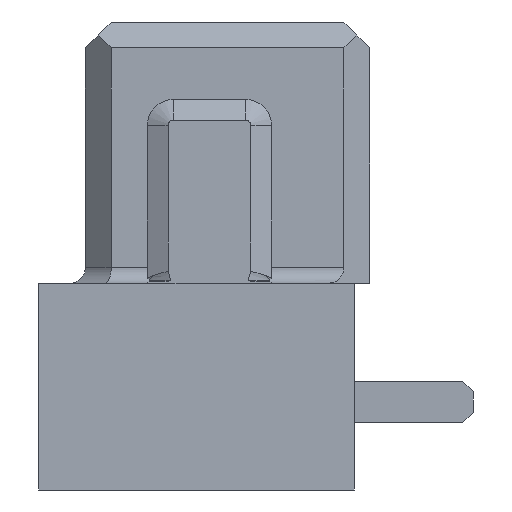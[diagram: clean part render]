
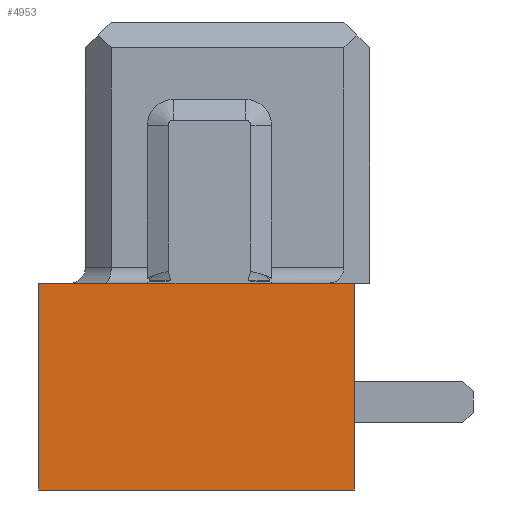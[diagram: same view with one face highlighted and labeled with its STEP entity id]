
A CAD part, left-side view. The second image highlights one B-rep face of the part: STEP entity #4953.
In plain terms, the highlighted planar face has unit normal (-1, 0, 0).
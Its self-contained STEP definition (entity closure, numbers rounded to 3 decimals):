
#205=DIRECTION('',(0.,-1.,0.));
#206=VECTOR('',#205,6.1);
#207=CARTESIAN_POINT('',(-13.15,3.2,-2.));
#208=LINE('',#207,#206);
#337=DIRECTION('',(0.,0.,1.));
#338=VECTOR('',#337,4.);
#339=CARTESIAN_POINT('',(-13.15,-2.9,-2.));
#340=LINE('',#339,#338);
#341=DIRECTION('',(0.,0.,1.));
#342=VECTOR('',#341,4.);
#343=CARTESIAN_POINT('',(-13.15,3.2,-2.));
#344=LINE('',#343,#342);
#629=DIRECTION('',(0.,-1.,0.));
#630=VECTOR('',#629,6.1);
#631=CARTESIAN_POINT('',(-13.15,3.2,2.));
#632=LINE('',#631,#630);
#3534=CARTESIAN_POINT('',(-13.15,3.2,-2.));
#3536=VERTEX_POINT('',#3534);
#3538=CARTESIAN_POINT('',(-13.15,3.2,2.));
#3540=VERTEX_POINT('',#3538);
#4485=CARTESIAN_POINT('',(-13.15,-2.9,-2.));
#4487=VERTEX_POINT('',#4485);
#4533=CARTESIAN_POINT('',(-13.15,-2.9,2.));
#4535=VERTEX_POINT('',#4533);
#4940=CARTESIAN_POINT('',(-13.15,3.2,-2.));
#4941=DIRECTION('',(-1.,0.,0.));
#4942=DIRECTION('',(0.,-1.,0.));
#4943=AXIS2_PLACEMENT_3D('',#4940,#4941,#4942);
#4944=PLANE('',#4943);
#4945=ORIENTED_EDGE('',*,*,#4931,.F.);
#4946=ORIENTED_EDGE('',*,*,#4792,.F.);
#4948=ORIENTED_EDGE('',*,*,#4947,.T.);
#4950=ORIENTED_EDGE('',*,*,#4949,.T.);
#4951=EDGE_LOOP('',(#4945,#4946,#4948,#4950));
#4952=FACE_OUTER_BOUND('',#4951,.F.);
#4792=EDGE_CURVE('',#3536,#4487,#208,.T.);
#4931=EDGE_CURVE('',#4487,#4535,#340,.T.);
#4947=EDGE_CURVE('',#3536,#3540,#344,.T.);
#4949=EDGE_CURVE('',#3540,#4535,#632,.T.);
#4953=ADVANCED_FACE('',(#4952),#4944,.T.);
